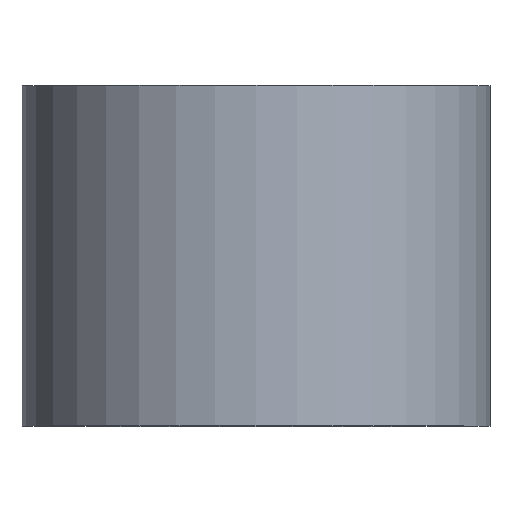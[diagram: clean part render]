
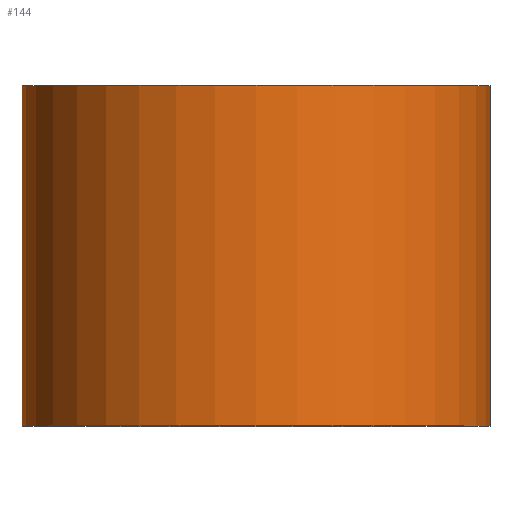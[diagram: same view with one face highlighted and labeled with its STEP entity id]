
A CAD part, top view. The second image highlights one B-rep face of the part: STEP entity #144.
In plain terms, the highlighted cylindrical face has radius 11 mm (diameter 22 mm), a partial arc.
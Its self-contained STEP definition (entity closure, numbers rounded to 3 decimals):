
#11 = ORIENTED_EDGE ( 'NONE', *, *, #163, .F. ) ;
#14 = CIRCLE ( 'NONE', #212, 11. ) ;
#23 = EDGE_CURVE ( 'NONE', #208, #84, #14, .T. ) ;
#60 = DIRECTION ( 'NONE',  ( 0., 1., 0. ) ) ;
#62 = EDGE_CURVE ( 'NONE', #194, #84, #74, .T. ) ;
#64 = CARTESIAN_POINT ( 'NONE',  ( -11., 0., 0. ) ) ;
#74 = LINE ( 'NONE', #153, #90 ) ;
#76 = EDGE_CURVE ( 'NONE', #137, #194, #103, .T. ) ;
#78 = ORIENTED_EDGE ( 'NONE', *, *, #23, .F. ) ;
#83 = CARTESIAN_POINT ( 'NONE',  ( -11., 0., 0. ) ) ;
#84 = VERTEX_POINT ( 'NONE', #173 ) ;
#90 = VECTOR ( 'NONE', #132, 1000. ) ;
#103 = CIRCLE ( 'NONE', #267, 11. ) ;
#125 = FACE_OUTER_BOUND ( 'NONE', #247, .T. ) ;
#126 = DIRECTION ( 'NONE',  ( 0., 1., 0. ) ) ;
#132 = DIRECTION ( 'NONE',  ( 0., 1., 0. ) ) ;
#137 = VERTEX_POINT ( 'NONE', #83 ) ;
#140 = VECTOR ( 'NONE', #261, 1000. ) ;
#144 = ADVANCED_FACE ( 'NONE', ( #125 ), #145, .T. ) ;
#145 = CYLINDRICAL_SURFACE ( 'NONE', #234, 11. ) ;
#151 = ORIENTED_EDGE ( 'NONE', *, *, #62, .T. ) ;
#152 = CARTESIAN_POINT ( 'NONE',  ( 0., 0., 0. ) ) ;
#153 = CARTESIAN_POINT ( 'NONE',  ( 11., 0., 0. ) ) ;
#163 = EDGE_CURVE ( 'NONE', #137, #208, #199, .T. ) ;
#173 = CARTESIAN_POINT ( 'NONE',  ( 11., 16., 0. ) ) ;
#174 = DIRECTION ( 'NONE',  ( -1., 0., 0. ) ) ;
#176 = DIRECTION ( 'NONE',  ( -1., 0., 0. ) ) ;
#181 = CARTESIAN_POINT ( 'NONE',  ( -11., 16., 0. ) ) ;
#194 = VERTEX_POINT ( 'NONE', #299 ) ;
#199 = LINE ( 'NONE', #64, #140 ) ;
#201 = DIRECTION ( 'NONE',  ( -1., 0., 0. ) ) ;
#208 = VERTEX_POINT ( 'NONE', #181 ) ;
#212 = AXIS2_PLACEMENT_3D ( 'NONE', #243, #60, #176 ) ;
#223 = DIRECTION ( 'NONE',  ( 0., 1., 0. ) ) ;
#234 = AXIS2_PLACEMENT_3D ( 'NONE', #240, #223, #174 ) ;
#240 = CARTESIAN_POINT ( 'NONE',  ( 0., 0., 0. ) ) ;
#243 = CARTESIAN_POINT ( 'NONE',  ( 0., 16., 0. ) ) ;
#247 = EDGE_LOOP ( 'NONE', ( #277, #151, #78, #11 ) ) ;
#261 = DIRECTION ( 'NONE',  ( 0., 1., 0. ) ) ;
#267 = AXIS2_PLACEMENT_3D ( 'NONE', #152, #126, #201 ) ;
#277 = ORIENTED_EDGE ( 'NONE', *, *, #76, .T. ) ;
#299 = CARTESIAN_POINT ( 'NONE',  ( 11., 0., 0. ) ) ;
